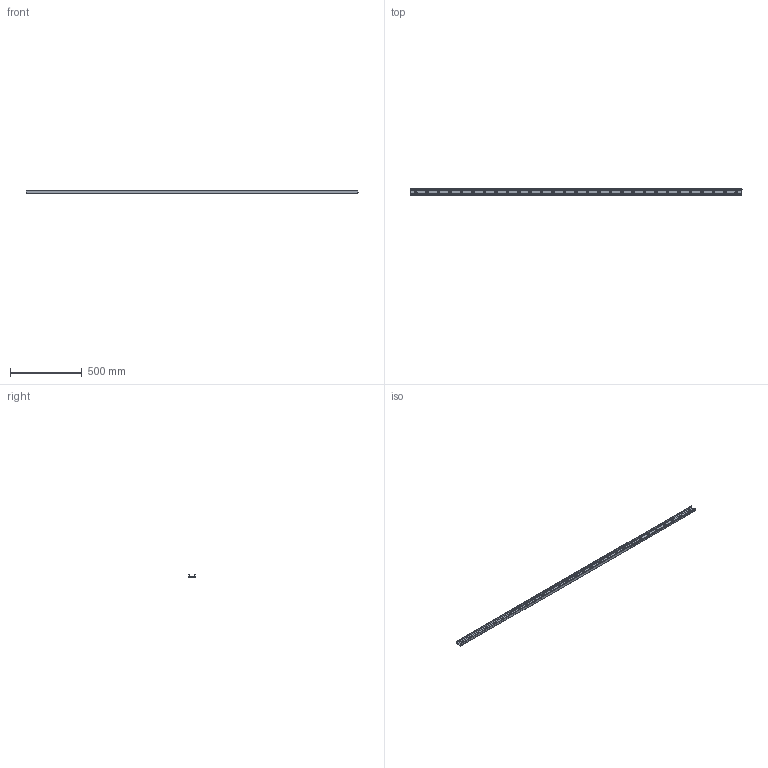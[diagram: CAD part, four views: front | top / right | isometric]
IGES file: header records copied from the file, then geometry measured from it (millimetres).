
Start section: SolidWorks IGES file using analytic representation for surfaces
Global section: file name: C:\Users\IanO\Desktop\43\L1943.ULC43_v2_20180121_IGES\L1943.ULC43-2320.igs; native system: SolidWorks 2017; preprocessor: SolidWorks 2017; author: IanO; date: 190121.084952; units: millimetre
Bounding box: 2320 x 43 x 21 mm (x, y, z)
Surface area: 363967.5 mm2 (no closed solid volume)
Topology: 0 solids, 0 shells, 171 faces, 4470 edges, 4470 vertices
Faces by surface type: revolution 129, bspline 42
